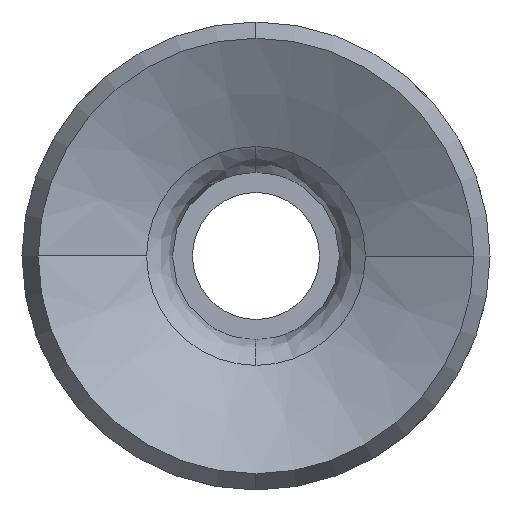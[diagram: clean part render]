
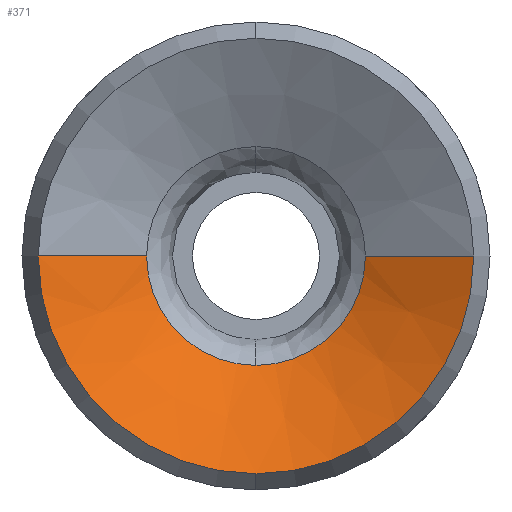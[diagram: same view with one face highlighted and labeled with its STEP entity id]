
A CAD part, front view. The second image highlights one B-rep face of the part: STEP entity #371.
In plain terms, the highlighted conical face has half-angle 60.971 degrees and reference radius 3.272 mm.
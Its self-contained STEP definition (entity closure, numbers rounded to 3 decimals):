
#26 = EDGE_CURVE ( 'NONE', #1832, #75, #1111, .T. ) ;
#47 = ORIENTED_EDGE ( 'NONE', *, *, #1093, .T. ) ;
#75 = VERTEX_POINT ( 'NONE', #979 ) ;
#107 = AXIS2_PLACEMENT_3D ( 'NONE', #744, #150, #1314 ) ;
#112 = VERTEX_POINT ( 'NONE', #879 ) ;
#129 = VECTOR ( 'NONE', #606, 1000. ) ;
#142 = CONICAL_SURFACE ( 'NONE', #310, 3.272, 1.064 ) ;
#150 = DIRECTION ( 'NONE',  ( 0., -1., 0. ) ) ;
#193 = DIRECTION ( 'NONE',  ( 1., 0., 0. ) ) ;
#196 = CIRCLE ( 'NONE', #107, 6.515 ) ;
#300 = ORIENTED_EDGE ( 'NONE', *, *, #1517, .T. ) ;
#310 = AXIS2_PLACEMENT_3D ( 'NONE', #1574, #1120, #193 ) ;
#342 = VERTEX_POINT ( 'NONE', #1853 ) ;
#371 = ADVANCED_FACE ( 'NONE', ( #1130 ), #142, .F. ) ;
#406 = DIRECTION ( 'NONE',  ( 0., 1., 0. ) ) ;
#409 = CARTESIAN_POINT ( 'NONE',  ( 3.272, -21.2, 0. ) ) ;
#473 = ORIENTED_EDGE ( 'NONE', *, *, #26, .T. ) ;
#480 = DIRECTION ( 'NONE',  ( 0., -1., 0. ) ) ;
#481 = CARTESIAN_POINT ( 'NONE',  ( 3.272, -21.2, 0. ) ) ;
#554 = ORIENTED_EDGE ( 'NONE', *, *, #1215, .F. ) ;
#606 = DIRECTION ( 'NONE',  ( -0.874, -0.485, 0. ) ) ;
#633 = CARTESIAN_POINT ( 'NONE',  ( 0., -21.2, -3.272 ) ) ;
#705 = CARTESIAN_POINT ( 'NONE',  ( 0., -21.2, 0. ) ) ;
#738 = ORIENTED_EDGE ( 'NONE', *, *, #1334, .T. ) ;
#744 = CARTESIAN_POINT ( 'NONE',  ( 0., -23., 0. ) ) ;
#800 = CIRCLE ( 'NONE', #1016, 3.272 ) ;
#809 = EDGE_CURVE ( 'NONE', #342, #1832, #196, .T. ) ;
#857 = CIRCLE ( 'NONE', #1198, 3.272 ) ;
#879 = CARTESIAN_POINT ( 'NONE',  ( -3.272, -21.2, 0. ) ) ;
#904 = LINE ( 'NONE', #481, #1265 ) ;
#959 = CARTESIAN_POINT ( 'NONE',  ( 0., -23., 0. ) ) ;
#979 = CARTESIAN_POINT ( 'NONE',  ( 6.515, -23., 0. ) ) ;
#987 = ORIENTED_EDGE ( 'NONE', *, *, #809, .T. ) ;
#992 = DIRECTION ( 'NONE',  ( 0., 0., -1. ) ) ;
#1015 = VERTEX_POINT ( 'NONE', #409 ) ;
#1016 = AXIS2_PLACEMENT_3D ( 'NONE', #1162, #406, #992 ) ;
#1064 = DIRECTION ( 'NONE',  ( 0.874, -0.485, 0. ) ) ;
#1093 = EDGE_CURVE ( 'NONE', #1640, #112, #857, .T. ) ;
#1111 = CIRCLE ( 'NONE', #1885, 6.515 ) ;
#1120 = DIRECTION ( 'NONE',  ( 0., -1., 0. ) ) ;
#1130 = FACE_OUTER_BOUND ( 'NONE', #1736, .T. ) ;
#1157 = DIRECTION ( 'NONE',  ( 0., 0., -1. ) ) ;
#1162 = CARTESIAN_POINT ( 'NONE',  ( 0., -21.2, 0. ) ) ;
#1198 = AXIS2_PLACEMENT_3D ( 'NONE', #705, #1767, #1157 ) ;
#1215 = EDGE_CURVE ( 'NONE', #1015, #75, #904, .T. ) ;
#1223 = CARTESIAN_POINT ( 'NONE',  ( -3.272, -21.2, 0. ) ) ;
#1225 = DIRECTION ( 'NONE',  ( 0., 0., 1. ) ) ;
#1265 = VECTOR ( 'NONE', #1064, 1000. ) ;
#1290 = CARTESIAN_POINT ( 'NONE',  ( 0., -23., -6.515 ) ) ;
#1314 = DIRECTION ( 'NONE',  ( 0., 0., 1. ) ) ;
#1334 = EDGE_CURVE ( 'NONE', #1015, #1640, #800, .T. ) ;
#1517 = EDGE_CURVE ( 'NONE', #112, #342, #1806, .T. ) ;
#1574 = CARTESIAN_POINT ( 'NONE',  ( 0., -21.2, 0. ) ) ;
#1640 = VERTEX_POINT ( 'NONE', #633 ) ;
#1736 = EDGE_LOOP ( 'NONE', ( #47, #300, #987, #473, #554, #738 ) ) ;
#1767 = DIRECTION ( 'NONE',  ( 0., 1., 0. ) ) ;
#1806 = LINE ( 'NONE', #1223, #129 ) ;
#1832 = VERTEX_POINT ( 'NONE', #1290 ) ;
#1853 = CARTESIAN_POINT ( 'NONE',  ( -6.515, -23., 0. ) ) ;
#1885 = AXIS2_PLACEMENT_3D ( 'NONE', #959, #480, #1225 ) ;
